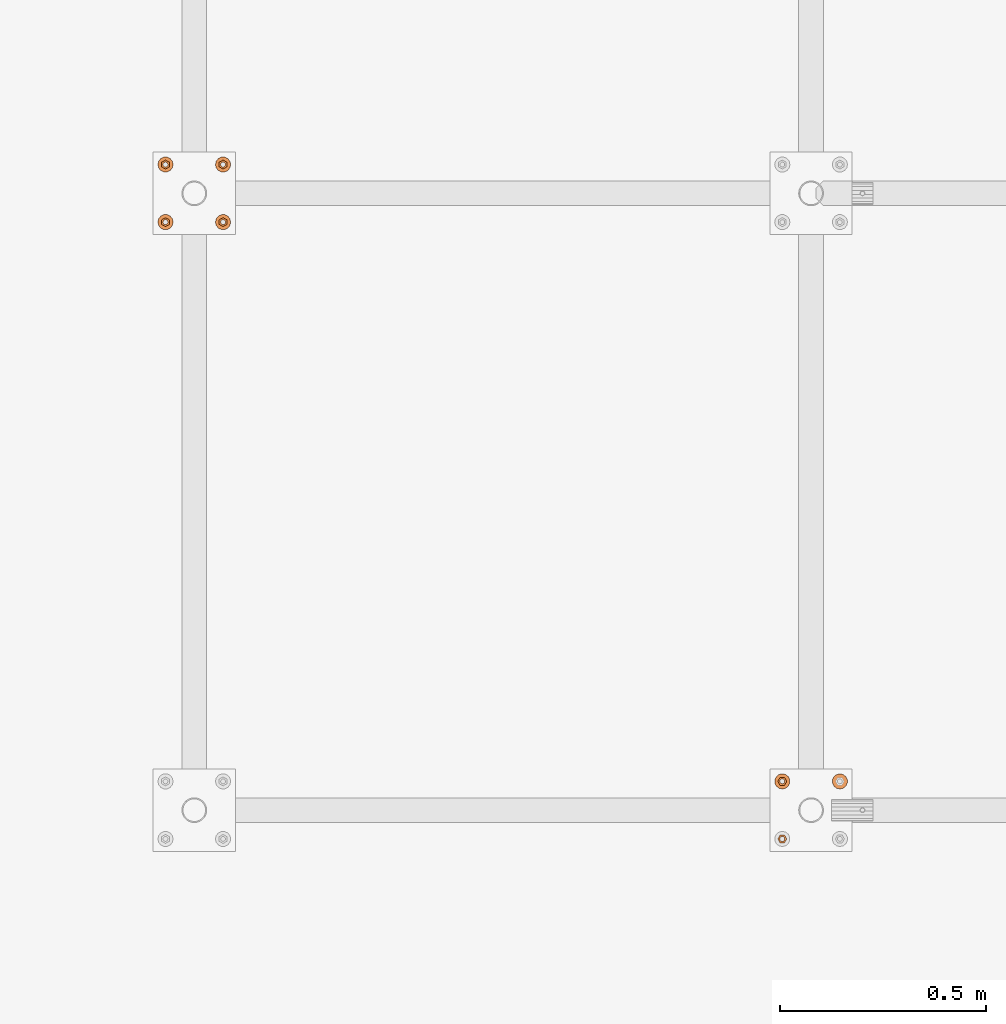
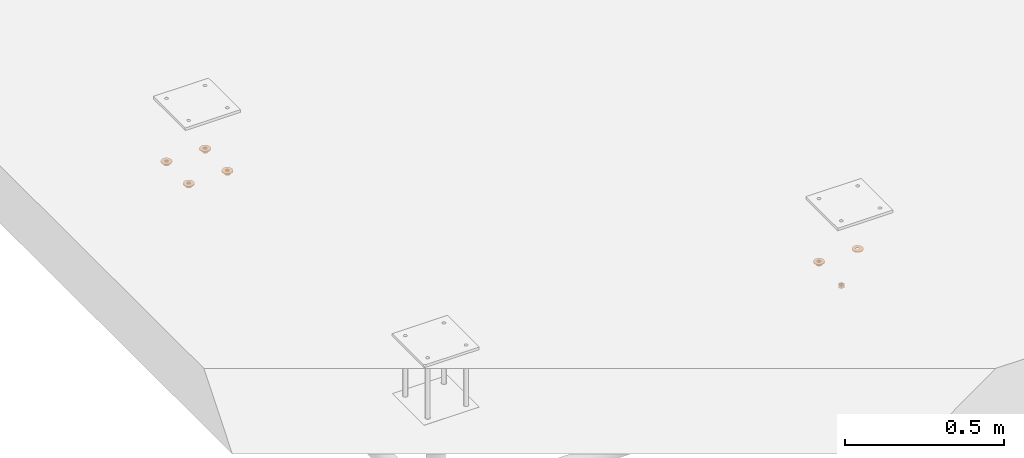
# One storey, part 20 of 30: 12 proxies.
"""IFC2X3 building model written with IfcOpenShell, lengths in millimetres."""

from ifc_helpers import new_model, entity, si_unit, converted_unit, origin_with_axes, place, context, project, spatial, faceted_brep, material, element, save


model = new_model("IFC2X3")

# Units and contexts
model_context = context("Model", 3, precision=1e-09, world=origin_with_axes())
ifc_project = project(units=[si_unit("LENGTHUNIT", "METRE", prefix="MILLI"), si_unit("AREAUNIT", "SQUARE_METRE"), si_unit("VOLUMEUNIT", "CUBIC_METRE"), converted_unit("PLANEANGLEUNIT", "DEGREE", entity("IfcPlaneAngleMeasure", 0.01745329), si_unit("PLANEANGLEUNIT", "RADIAN"), dimensions=[0, 0, 0, 0, 0, 0, 0])], contexts=[model_context])

# Site, building, storey
site_placement = place(None, origin_with_axes())
site = spatial("IfcSite", under=ifc_project, at=site_placement, Name="M?nsinger Stra?e, 81477 M?nchen", CompositionType="ELEMENT")
building_placement = place(site_placement, origin_with_axes())
building = spatial("IfcBuilding", under=site, at=building_placement, Name="Struktur 1", CompositionType="ELEMENT")
storey_placement = place(building_placement, origin_with_axes())
storey = spatial("IfcBuildingStorey", under=building, at=storey_placement, Name="Default Storey", CompositionType="ELEMENT", Elevation=0.0)

# Proxies
ifc_material = material(Name="Kein")
proxy_1_placement = place(None, origin_with_axes())
element("IfcBuildingElementProxy", 1, at=proxy_1_placement, inside=storey, material=ifc_material, ObjectType="-", context=model_context, shape_type="Brep", body=[
    faceted_brep([(1324.780556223, 3046.799376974, 6512.0), (1324.780556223, 3046.799376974, 6515.0), (1319.647193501, 3053.236410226, 6515.0), (1319.647193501, 3053.236410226, 6512.0), (1332.198480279, 3043.227093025, 6515.0), (1340.431754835, 3043.227093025, 6515.0), (1347.849678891, 3046.799376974, 6515.0), (1352.983041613, 3053.236410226, 6515.0), (1354.815117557, 3061.2632594, 6515.0), (1352.983041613, 3069.290108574, 6515.0), (1347.849678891, 3075.727141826, 6515.0), (1340.431754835, 3079.299425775, 6515.0), (1332.198480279, 3079.299425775, 6515.0), (1324.780556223, 3075.727141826, 6515.0), (1319.647193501, 3069.290108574, 6515.0), (1317.815117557, 3061.2632594, 6515.0), (1333.065117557, 3055.634094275, 6515.0), (1330.685952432, 3058.0132594, 6515.0), (1329.815117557, 3061.2632594, 6515.0), (1330.685952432, 3064.5132594, 6515.0), (1333.065117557, 3066.892424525, 6515.0), (1336.315117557, 3067.7632594, 6515.0), (1339.565117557, 3066.892424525, 6515.0), (1341.944282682, 3064.5132594, 6515.0), (1342.815117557, 3061.2632594, 6515.0), (1341.944282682, 3058.0132594, 6515.0), (1339.565117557, 3055.634094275, 6515.0), (1336.315117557, 3054.7632594, 6515.0), (1317.815117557, 3061.2632594, 6512.0), (1319.647193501, 3069.290108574, 6512.0), (1324.780556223, 3075.727141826, 6512.0), (1332.198480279, 3079.299425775, 6512.0), (1340.431754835, 3079.299425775, 6512.0), (1347.849678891, 3075.727141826, 6512.0), (1352.983041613, 3069.290108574, 6512.0), (1354.815117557, 3061.2632594, 6512.0), (1352.983041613, 3053.236410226, 6512.0), (1347.849678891, 3046.799376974, 6512.0), (1340.431754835, 3043.227093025, 6512.0), (1332.198480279, 3043.227093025, 6512.0), (1329.815117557, 3061.2632594, 6512.0), (1330.685952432, 3058.0132594, 6512.0), (1333.065117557, 3055.634094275, 6512.0), (1336.315117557, 3054.7632594, 6512.0), (1339.565117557, 3055.634094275, 6512.0), (1341.944282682, 3058.0132594, 6512.0), (1342.815117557, 3061.2632594, 6512.0), (1341.944282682, 3064.5132594, 6512.0), (1339.565117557, 3066.892424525, 6512.0), (1336.315117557, 3067.7632594, 6512.0), (1333.065117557, 3066.892424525, 6512.0), (1330.685952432, 3064.5132594, 6512.0)], [[[0, 1, 2, 3]], [[4, 5, 6, 7, 8, 9, 10, 11, 12, 13, 14, 15, 2, 1], [16, 17, 18, 19, 20, 21, 22, 23, 24, 25, 26, 27]], [[28, 29, 30, 31, 32, 33, 34, 35, 36, 37, 38, 39, 0, 3], [40, 41, 42, 43, 44, 45, 46, 47, 48, 49, 50, 51]], [[1, 0, 39, 4]], [[41, 17, 16, 42]], [[17, 41, 40, 18]], [[3, 2, 15, 28]], [[4, 39, 38, 5]], [[42, 16, 27, 43]], [[18, 40, 51, 19]], [[28, 15, 14, 29]], [[5, 38, 37, 6]], [[43, 27, 26, 44]], [[19, 51, 50, 20]], [[29, 14, 13, 30]], [[6, 37, 36, 7]], [[44, 26, 25, 45]], [[20, 50, 49, 21]], [[30, 13, 12, 31]], [[7, 36, 35, 8]], [[45, 25, 24, 46]], [[48, 22, 21, 49]], [[31, 12, 11, 32]], [[23, 47, 46, 24]], [[22, 48, 47, 23]], [[8, 35, 34, 9]], [[32, 11, 10, 33]], [[9, 34, 33, 10]]]),
])
proxy_2_placement = place(None, origin_with_axes())
element("IfcBuildingElementProxy", 2, at=proxy_2_placement, inside=storey, material=ifc_material, ObjectType="-", context=model_context, shape_type="Brep", body=[
    faceted_brep([(1330.315117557, 3061.2632594, 6502.0), (1330.315117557, 3061.2632594, 6512.0), (1331.118965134, 3058.2632594, 6512.0), (1331.118965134, 3058.2632594, 6502.0), (1333.315117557, 3056.067106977, 6512.0), (1333.315117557, 3056.067106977, 6502.0), (1331.118965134, 3064.2632594, 6502.0), (1331.118965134, 3064.2632594, 6512.0), (1326.815117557, 3066.748086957, 6512.0), (1326.815117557, 3055.778431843, 6512.0), (1336.315117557, 3050.293604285, 6512.0), (1345.815117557, 3055.778431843, 6512.0), (1345.815117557, 3066.748086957, 6512.0), (1336.315117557, 3072.232914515, 6512.0), (1333.315117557, 3066.459411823, 6512.0), (1336.315117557, 3067.2632594, 6512.0), (1339.315117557, 3066.459411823, 6512.0), (1341.51126998, 3064.2632594, 6512.0), (1342.315117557, 3061.2632594, 6512.0), (1341.51126998, 3058.2632594, 6512.0), (1339.315117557, 3056.067106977, 6512.0), (1336.315117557, 3055.2632594, 6512.0), (1326.815117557, 3066.748086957, 6502.0), (1336.315117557, 3072.232914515, 6502.0), (1345.815117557, 3066.748086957, 6502.0), (1345.815117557, 3055.778431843, 6502.0), (1336.315117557, 3050.293604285, 6502.0), (1326.815117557, 3055.778431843, 6502.0), (1333.315117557, 3066.459411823, 6502.0), (1336.315117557, 3055.2632594, 6502.0), (1336.315117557, 3067.2632594, 6502.0), (1339.315117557, 3056.067106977, 6502.0), (1339.315117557, 3066.459411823, 6502.0), (1341.51126998, 3058.2632594, 6502.0), (1341.51126998, 3064.2632594, 6502.0), (1342.315117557, 3061.2632594, 6502.0)], [[[0, 1, 2, 3]], [[3, 2, 4, 5]], [[1, 0, 6, 7]], [[8, 9, 10, 11, 12, 13], [7, 14, 15, 16, 17, 18, 19, 20, 21, 4, 2, 1]], [[22, 23, 24, 25, 26, 27]], [[7, 6, 28, 14]], [[22, 27, 9, 8]], [[5, 4, 21, 29]], [[10, 9, 27, 26]], [[14, 28, 30, 15]], [[23, 22, 8, 13]], [[29, 21, 20, 31]], [[11, 10, 26, 25]], [[15, 30, 32, 16]], [[24, 23, 13, 12]], [[31, 20, 19, 33]], [[25, 24, 12, 11]], [[16, 32, 34, 17]], [[33, 19, 18, 35]], [[17, 34, 35, 18]]]),
])
proxy_3_placement = place(None, origin_with_axes())
element("IfcBuildingElementProxy", 3, at=proxy_3_placement, inside=storey, material=ifc_material, ObjectType="-", context=model_context, shape_type="Brep", body=[
    faceted_brep([(1470.315117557, 3061.2632594, 6502.0), (1470.315117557, 3061.2632594, 6512.0), (1471.118965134, 3058.2632594, 6512.0), (1471.118965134, 3058.2632594, 6502.0), (1473.315117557, 3056.067106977, 6512.0), (1473.315117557, 3056.067106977, 6502.0), (1471.118965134, 3064.2632594, 6502.0), (1471.118965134, 3064.2632594, 6512.0), (1466.815117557, 3066.748086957, 6512.0), (1466.815117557, 3055.778431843, 6512.0), (1476.315117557, 3050.293604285, 6512.0), (1485.815117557, 3055.778431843, 6512.0), (1485.815117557, 3066.748086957, 6512.0), (1476.315117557, 3072.232914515, 6512.0), (1473.315117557, 3066.459411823, 6512.0), (1476.315117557, 3067.2632594, 6512.0), (1479.315117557, 3066.459411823, 6512.0), (1481.51126998, 3064.2632594, 6512.0), (1482.315117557, 3061.2632594, 6512.0), (1481.51126998, 3058.2632594, 6512.0), (1479.315117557, 3056.067106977, 6512.0), (1476.315117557, 3055.2632594, 6512.0), (1466.815117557, 3066.748086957, 6502.0), (1476.315117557, 3072.232914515, 6502.0), (1485.815117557, 3066.748086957, 6502.0), (1485.815117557, 3055.778431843, 6502.0), (1476.315117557, 3050.293604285, 6502.0), (1466.815117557, 3055.778431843, 6502.0), (1473.315117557, 3066.459411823, 6502.0), (1476.315117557, 3055.2632594, 6502.0), (1476.315117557, 3067.2632594, 6502.0), (1479.315117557, 3056.067106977, 6502.0), (1479.315117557, 3066.459411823, 6502.0), (1481.51126998, 3058.2632594, 6502.0), (1481.51126998, 3064.2632594, 6502.0), (1482.315117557, 3061.2632594, 6502.0)], [[[0, 1, 2, 3]], [[3, 2, 4, 5]], [[1, 0, 6, 7]], [[8, 9, 10, 11, 12, 13], [7, 14, 15, 16, 17, 18, 19, 20, 21, 4, 2, 1]], [[22, 23, 24, 25, 26, 27]], [[7, 6, 28, 14]], [[22, 27, 9, 8]], [[5, 4, 21, 29]], [[10, 9, 27, 26]], [[14, 28, 30, 15]], [[23, 22, 8, 13]], [[29, 21, 20, 31]], [[11, 10, 26, 25]], [[15, 30, 32, 16]], [[24, 23, 13, 12]], [[31, 20, 19, 33]], [[25, 24, 12, 11]], [[16, 32, 34, 17]], [[33, 19, 18, 35]], [[17, 34, 35, 18]]]),
])
proxy_4_placement = place(None, origin_with_axes())
element("IfcBuildingElementProxy", 4, at=proxy_4_placement, inside=storey, material=ifc_material, ObjectType="-", context=model_context, shape_type="Brep", body=[
    faceted_brep([(1464.780556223, 3046.799376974, 6512.0), (1464.780556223, 3046.799376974, 6515.0), (1459.647193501, 3053.236410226, 6515.0), (1459.647193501, 3053.236410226, 6512.0), (1472.198480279, 3043.227093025, 6515.0), (1480.431754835, 3043.227093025, 6515.0), (1487.849678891, 3046.799376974, 6515.0), (1492.983041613, 3053.236410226, 6515.0), (1494.815117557, 3061.2632594, 6515.0), (1492.983041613, 3069.290108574, 6515.0), (1487.849678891, 3075.727141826, 6515.0), (1480.431754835, 3079.299425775, 6515.0), (1472.198480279, 3079.299425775, 6515.0), (1464.780556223, 3075.727141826, 6515.0), (1459.647193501, 3069.290108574, 6515.0), (1457.815117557, 3061.2632594, 6515.0), (1473.065117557, 3055.634094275, 6515.0), (1470.685952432, 3058.0132594, 6515.0), (1469.815117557, 3061.2632594, 6515.0), (1470.685952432, 3064.5132594, 6515.0), (1473.065117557, 3066.892424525, 6515.0), (1476.315117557, 3067.7632594, 6515.0), (1479.565117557, 3066.892424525, 6515.0), (1481.944282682, 3064.5132594, 6515.0), (1482.815117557, 3061.2632594, 6515.0), (1481.944282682, 3058.0132594, 6515.0), (1479.565117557, 3055.634094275, 6515.0), (1476.315117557, 3054.7632594, 6515.0), (1457.815117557, 3061.2632594, 6512.0), (1459.647193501, 3069.290108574, 6512.0), (1464.780556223, 3075.727141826, 6512.0), (1472.198480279, 3079.299425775, 6512.0), (1480.431754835, 3079.299425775, 6512.0), (1487.849678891, 3075.727141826, 6512.0), (1492.983041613, 3069.290108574, 6512.0), (1494.815117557, 3061.2632594, 6512.0), (1492.983041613, 3053.236410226, 6512.0), (1487.849678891, 3046.799376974, 6512.0), (1480.431754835, 3043.227093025, 6512.0), (1472.198480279, 3043.227093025, 6512.0), (1469.815117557, 3061.2632594, 6512.0), (1470.685952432, 3058.0132594, 6512.0), (1473.065117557, 3055.634094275, 6512.0), (1476.315117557, 3054.7632594, 6512.0), (1479.565117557, 3055.634094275, 6512.0), (1481.944282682, 3058.0132594, 6512.0), (1482.815117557, 3061.2632594, 6512.0), (1481.944282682, 3064.5132594, 6512.0), (1479.565117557, 3066.892424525, 6512.0), (1476.315117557, 3067.7632594, 6512.0), (1473.065117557, 3066.892424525, 6512.0), (1470.685952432, 3064.5132594, 6512.0)], [[[0, 1, 2, 3]], [[4, 5, 6, 7, 8, 9, 10, 11, 12, 13, 14, 15, 2, 1], [16, 17, 18, 19, 20, 21, 22, 23, 24, 25, 26, 27]], [[28, 29, 30, 31, 32, 33, 34, 35, 36, 37, 38, 39, 0, 3], [40, 41, 42, 43, 44, 45, 46, 47, 48, 49, 50, 51]], [[1, 0, 39, 4]], [[41, 17, 16, 42]], [[17, 41, 40, 18]], [[3, 2, 15, 28]], [[4, 39, 38, 5]], [[42, 16, 27, 43]], [[18, 40, 51, 19]], [[28, 15, 14, 29]], [[5, 38, 37, 6]], [[43, 27, 26, 44]], [[19, 51, 50, 20]], [[29, 14, 13, 30]], [[6, 37, 36, 7]], [[44, 26, 25, 45]], [[20, 50, 49, 21]], [[30, 13, 12, 31]], [[7, 36, 35, 8]], [[45, 25, 24, 46]], [[48, 22, 21, 49]], [[31, 12, 11, 32]], [[23, 47, 46, 24]], [[22, 48, 47, 23]], [[8, 35, 34, 9]], [[32, 11, 10, 33]], [[9, 34, 33, 10]]]),
])
proxy_5_placement = place(None, origin_with_axes())
element("IfcBuildingElementProxy", 5, at=proxy_5_placement, inside=storey, material=ifc_material, ObjectType="-", context=model_context, shape_type="Brep", body=[
    faceted_brep([(1464.780556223, 2906.799376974, 6512.0), (1464.780556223, 2906.799376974, 6515.0), (1459.647193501, 2913.236410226, 6515.0), (1459.647193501, 2913.236410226, 6512.0), (1472.198480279, 2903.227093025, 6515.0), (1480.431754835, 2903.227093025, 6515.0), (1487.849678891, 2906.799376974, 6515.0), (1492.983041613, 2913.236410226, 6515.0), (1494.815117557, 2921.2632594, 6515.0), (1492.983041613, 2929.290108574, 6515.0), (1487.849678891, 2935.727141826, 6515.0), (1480.431754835, 2939.299425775, 6515.0), (1472.198480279, 2939.299425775, 6515.0), (1464.780556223, 2935.727141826, 6515.0), (1459.647193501, 2929.290108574, 6515.0), (1457.815117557, 2921.2632594, 6515.0), (1473.065117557, 2915.634094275, 6515.0), (1470.685952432, 2918.0132594, 6515.0), (1469.815117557, 2921.2632594, 6515.0), (1470.685952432, 2924.5132594, 6515.0), (1473.065117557, 2926.892424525, 6515.0), (1476.315117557, 2927.7632594, 6515.0), (1479.565117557, 2926.892424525, 6515.0), (1481.944282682, 2924.5132594, 6515.0), (1482.815117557, 2921.2632594, 6515.0), (1481.944282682, 2918.0132594, 6515.0), (1479.565117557, 2915.634094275, 6515.0), (1476.315117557, 2914.7632594, 6515.0), (1457.815117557, 2921.2632594, 6512.0), (1459.647193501, 2929.290108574, 6512.0), (1464.780556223, 2935.727141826, 6512.0), (1472.198480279, 2939.299425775, 6512.0), (1480.431754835, 2939.299425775, 6512.0), (1487.849678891, 2935.727141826, 6512.0), (1492.983041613, 2929.290108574, 6512.0), (1494.815117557, 2921.2632594, 6512.0), (1492.983041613, 2913.236410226, 6512.0), (1487.849678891, 2906.799376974, 6512.0), (1480.431754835, 2903.227093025, 6512.0), (1472.198480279, 2903.227093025, 6512.0), (1469.815117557, 2921.2632594, 6512.0), (1470.685952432, 2918.0132594, 6512.0), (1473.065117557, 2915.634094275, 6512.0), (1476.315117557, 2914.7632594, 6512.0), (1479.565117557, 2915.634094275, 6512.0), (1481.944282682, 2918.0132594, 6512.0), (1482.815117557, 2921.2632594, 6512.0), (1481.944282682, 2924.5132594, 6512.0), (1479.565117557, 2926.892424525, 6512.0), (1476.315117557, 2927.7632594, 6512.0), (1473.065117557, 2926.892424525, 6512.0), (1470.685952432, 2924.5132594, 6512.0)], [[[0, 1, 2, 3]], [[4, 5, 6, 7, 8, 9, 10, 11, 12, 13, 14, 15, 2, 1], [16, 17, 18, 19, 20, 21, 22, 23, 24, 25, 26, 27]], [[28, 29, 30, 31, 32, 33, 34, 35, 36, 37, 38, 39, 0, 3], [40, 41, 42, 43, 44, 45, 46, 47, 48, 49, 50, 51]], [[1, 0, 39, 4]], [[41, 17, 16, 42]], [[17, 41, 40, 18]], [[3, 2, 15, 28]], [[4, 39, 38, 5]], [[42, 16, 27, 43]], [[18, 40, 51, 19]], [[28, 15, 14, 29]], [[5, 38, 37, 6]], [[43, 27, 26, 44]], [[19, 51, 50, 20]], [[29, 14, 13, 30]], [[6, 37, 36, 7]], [[44, 26, 25, 45]], [[20, 50, 49, 21]], [[30, 13, 12, 31]], [[7, 36, 35, 8]], [[45, 25, 24, 46]], [[48, 22, 21, 49]], [[31, 12, 11, 32]], [[23, 47, 46, 24]], [[22, 48, 47, 23]], [[8, 35, 34, 9]], [[32, 11, 10, 33]], [[9, 34, 33, 10]]]),
])
proxy_6_placement = place(None, origin_with_axes())
element("IfcBuildingElementProxy", 6, at=proxy_6_placement, inside=storey, material=ifc_material, ObjectType="-", context=model_context, shape_type="Brep", body=[
    faceted_brep([(1470.315117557, 2921.2632594, 6502.0), (1470.315117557, 2921.2632594, 6512.0), (1471.118965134, 2918.2632594, 6512.0), (1471.118965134, 2918.2632594, 6502.0), (1473.315117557, 2916.067106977, 6512.0), (1473.315117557, 2916.067106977, 6502.0), (1471.118965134, 2924.2632594, 6502.0), (1471.118965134, 2924.2632594, 6512.0), (1466.815117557, 2926.748086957, 6512.0), (1466.815117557, 2915.778431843, 6512.0), (1476.315117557, 2910.293604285, 6512.0), (1485.815117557, 2915.778431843, 6512.0), (1485.815117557, 2926.748086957, 6512.0), (1476.315117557, 2932.232914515, 6512.0), (1473.315117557, 2926.459411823, 6512.0), (1476.315117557, 2927.2632594, 6512.0), (1479.315117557, 2926.459411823, 6512.0), (1481.51126998, 2924.2632594, 6512.0), (1482.315117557, 2921.2632594, 6512.0), (1481.51126998, 2918.2632594, 6512.0), (1479.315117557, 2916.067106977, 6512.0), (1476.315117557, 2915.2632594, 6512.0), (1466.815117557, 2926.748086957, 6502.0), (1476.315117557, 2932.232914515, 6502.0), (1485.815117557, 2926.748086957, 6502.0), (1485.815117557, 2915.778431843, 6502.0), (1476.315117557, 2910.293604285, 6502.0), (1466.815117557, 2915.778431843, 6502.0), (1473.315117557, 2926.459411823, 6502.0), (1476.315117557, 2915.2632594, 6502.0), (1476.315117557, 2927.2632594, 6502.0), (1479.315117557, 2916.067106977, 6502.0), (1479.315117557, 2926.459411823, 6502.0), (1481.51126998, 2918.2632594, 6502.0), (1481.51126998, 2924.2632594, 6502.0), (1482.315117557, 2921.2632594, 6502.0)], [[[0, 1, 2, 3]], [[3, 2, 4, 5]], [[1, 0, 6, 7]], [[8, 9, 10, 11, 12, 13], [7, 14, 15, 16, 17, 18, 19, 20, 21, 4, 2, 1]], [[22, 23, 24, 25, 26, 27]], [[7, 6, 28, 14]], [[22, 27, 9, 8]], [[5, 4, 21, 29]], [[10, 9, 27, 26]], [[14, 28, 30, 15]], [[23, 22, 8, 13]], [[29, 21, 20, 31]], [[11, 10, 26, 25]], [[15, 30, 32, 16]], [[24, 23, 13, 12]], [[31, 20, 19, 33]], [[25, 24, 12, 11]], [[16, 32, 34, 17]], [[33, 19, 18, 35]], [[17, 34, 35, 18]]]),
])
proxy_7_placement = place(None, origin_with_axes())
element("IfcBuildingElementProxy", 7, at=proxy_7_placement, inside=storey, material=ifc_material, ObjectType="-", context=model_context, shape_type="Brep", body=[
    faceted_brep([(1330.315117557, 2921.2632594, 6502.0), (1330.315117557, 2921.2632594, 6512.0), (1331.118965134, 2918.2632594, 6512.0), (1331.118965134, 2918.2632594, 6502.0), (1333.315117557, 2916.067106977, 6512.0), (1333.315117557, 2916.067106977, 6502.0), (1331.118965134, 2924.2632594, 6502.0), (1331.118965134, 2924.2632594, 6512.0), (1326.815117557, 2926.748086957, 6512.0), (1326.815117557, 2915.778431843, 6512.0), (1336.315117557, 2910.293604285, 6512.0), (1345.815117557, 2915.778431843, 6512.0), (1345.815117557, 2926.748086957, 6512.0), (1336.315117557, 2932.232914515, 6512.0), (1333.315117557, 2926.459411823, 6512.0), (1336.315117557, 2927.2632594, 6512.0), (1339.315117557, 2926.459411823, 6512.0), (1341.51126998, 2924.2632594, 6512.0), (1342.315117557, 2921.2632594, 6512.0), (1341.51126998, 2918.2632594, 6512.0), (1339.315117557, 2916.067106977, 6512.0), (1336.315117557, 2915.2632594, 6512.0), (1326.815117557, 2926.748086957, 6502.0), (1336.315117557, 2932.232914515, 6502.0), (1345.815117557, 2926.748086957, 6502.0), (1345.815117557, 2915.778431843, 6502.0), (1336.315117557, 2910.293604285, 6502.0), (1326.815117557, 2915.778431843, 6502.0), (1333.315117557, 2926.459411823, 6502.0), (1336.315117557, 2915.2632594, 6502.0), (1336.315117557, 2927.2632594, 6502.0), (1339.315117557, 2916.067106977, 6502.0), (1339.315117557, 2926.459411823, 6502.0), (1341.51126998, 2918.2632594, 6502.0), (1341.51126998, 2924.2632594, 6502.0), (1342.315117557, 2921.2632594, 6502.0)], [[[0, 1, 2, 3]], [[3, 2, 4, 5]], [[1, 0, 6, 7]], [[8, 9, 10, 11, 12, 13], [7, 14, 15, 16, 17, 18, 19, 20, 21, 4, 2, 1]], [[22, 23, 24, 25, 26, 27]], [[7, 6, 28, 14]], [[22, 27, 9, 8]], [[5, 4, 21, 29]], [[10, 9, 27, 26]], [[14, 28, 30, 15]], [[23, 22, 8, 13]], [[29, 21, 20, 31]], [[11, 10, 26, 25]], [[15, 30, 32, 16]], [[24, 23, 13, 12]], [[31, 20, 19, 33]], [[25, 24, 12, 11]], [[16, 32, 34, 17]], [[33, 19, 18, 35]], [[17, 34, 35, 18]]]),
])
proxy_8_placement = place(None, origin_with_axes())
element("IfcBuildingElementProxy", 8, at=proxy_8_placement, inside=storey, material=ifc_material, ObjectType="-", context=model_context, shape_type="Brep", body=[
    faceted_brep([(1324.780556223, 2906.799376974, 6512.0), (1324.780556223, 2906.799376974, 6515.0), (1319.647193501, 2913.236410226, 6515.0), (1319.647193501, 2913.236410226, 6512.0), (1332.198480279, 2903.227093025, 6515.0), (1340.431754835, 2903.227093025, 6515.0), (1347.849678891, 2906.799376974, 6515.0), (1352.983041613, 2913.236410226, 6515.0), (1354.815117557, 2921.2632594, 6515.0), (1352.983041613, 2929.290108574, 6515.0), (1347.849678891, 2935.727141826, 6515.0), (1340.431754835, 2939.299425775, 6515.0), (1332.198480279, 2939.299425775, 6515.0), (1324.780556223, 2935.727141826, 6515.0), (1319.647193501, 2929.290108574, 6515.0), (1317.815117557, 2921.2632594, 6515.0), (1333.065117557, 2915.634094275, 6515.0), (1330.685952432, 2918.0132594, 6515.0), (1329.815117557, 2921.2632594, 6515.0), (1330.685952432, 2924.5132594, 6515.0), (1333.065117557, 2926.892424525, 6515.0), (1336.315117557, 2927.7632594, 6515.0), (1339.565117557, 2926.892424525, 6515.0), (1341.944282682, 2924.5132594, 6515.0), (1342.815117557, 2921.2632594, 6515.0), (1341.944282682, 2918.0132594, 6515.0), (1339.565117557, 2915.634094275, 6515.0), (1336.315117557, 2914.7632594, 6515.0), (1317.815117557, 2921.2632594, 6512.0), (1319.647193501, 2929.290108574, 6512.0), (1324.780556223, 2935.727141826, 6512.0), (1332.198480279, 2939.299425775, 6512.0), (1340.431754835, 2939.299425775, 6512.0), (1347.849678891, 2935.727141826, 6512.0), (1352.983041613, 2929.290108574, 6512.0), (1354.815117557, 2921.2632594, 6512.0), (1352.983041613, 2913.236410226, 6512.0), (1347.849678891, 2906.799376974, 6512.0), (1340.431754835, 2903.227093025, 6512.0), (1332.198480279, 2903.227093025, 6512.0), (1329.815117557, 2921.2632594, 6512.0), (1330.685952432, 2918.0132594, 6512.0), (1333.065117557, 2915.634094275, 6512.0), (1336.315117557, 2914.7632594, 6512.0), (1339.565117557, 2915.634094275, 6512.0), (1341.944282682, 2918.0132594, 6512.0), (1342.815117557, 2921.2632594, 6512.0), (1341.944282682, 2924.5132594, 6512.0), (1339.565117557, 2926.892424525, 6512.0), (1336.315117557, 2927.7632594, 6512.0), (1333.065117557, 2926.892424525, 6512.0), (1330.685952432, 2924.5132594, 6512.0)], [[[0, 1, 2, 3]], [[4, 5, 6, 7, 8, 9, 10, 11, 12, 13, 14, 15, 2, 1], [16, 17, 18, 19, 20, 21, 22, 23, 24, 25, 26, 27]], [[28, 29, 30, 31, 32, 33, 34, 35, 36, 37, 38, 39, 0, 3], [40, 41, 42, 43, 44, 45, 46, 47, 48, 49, 50, 51]], [[1, 0, 39, 4]], [[41, 17, 16, 42]], [[17, 41, 40, 18]], [[3, 2, 15, 28]], [[4, 39, 38, 5]], [[42, 16, 27, 43]], [[18, 40, 51, 19]], [[28, 15, 14, 29]], [[5, 38, 37, 6]], [[43, 27, 26, 44]], [[19, 51, 50, 20]], [[29, 14, 13, 30]], [[6, 37, 36, 7]], [[44, 26, 25, 45]], [[20, 50, 49, 21]], [[30, 13, 12, 31]], [[7, 36, 35, 8]], [[45, 25, 24, 46]], [[48, 22, 21, 49]], [[31, 12, 11, 32]], [[23, 47, 46, 24]], [[22, 48, 47, 23]], [[8, 35, 34, 9]], [[32, 11, 10, 33]], [[9, 34, 33, 10]]]),
])
proxy_9_placement = place(None, origin_with_axes())
element("IfcBuildingElementProxy", 9, at=proxy_9_placement, inside=storey, material=ifc_material, ObjectType="-", context=model_context, shape_type="Brep", body=[
    faceted_brep([(2990.778999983, 1549.728698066, 6512.0), (2990.778999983, 1549.728698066, 6515.0), (2984.341966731, 1544.595335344, 6515.0), (2984.341966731, 1544.595335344, 6512.0), (2994.351283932, 1557.146622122, 6515.0), (2994.351283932, 1565.379896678, 6515.0), (2990.778999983, 1572.797820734, 6515.0), (2984.341966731, 1577.931183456, 6515.0), (2976.315117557, 1579.7632594, 6515.0), (2968.288268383, 1577.931183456, 6515.0), (2961.851235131, 1572.797820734, 6515.0), (2958.278951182, 1565.379896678, 6515.0), (2958.278951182, 1557.146622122, 6515.0), (2961.851235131, 1549.728698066, 6515.0), (2968.288268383, 1544.595335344, 6515.0), (2976.315117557, 1542.7632594, 6515.0), (2981.944282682, 1558.0132594, 6515.0), (2979.565117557, 1555.634094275, 6515.0), (2976.315117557, 1554.7632594, 6515.0), (2973.065117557, 1555.634094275, 6515.0), (2970.685952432, 1558.0132594, 6515.0), (2969.815117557, 1561.2632594, 6515.0), (2970.685952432, 1564.5132594, 6515.0), (2973.065117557, 1566.892424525, 6515.0), (2976.315117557, 1567.7632594, 6515.0), (2979.565117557, 1566.892424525, 6515.0), (2981.944282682, 1564.5132594, 6515.0), (2982.815117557, 1561.2632594, 6515.0), (2976.315117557, 1542.7632594, 6512.0), (2968.288268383, 1544.595335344, 6512.0), (2961.851235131, 1549.728698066, 6512.0), (2958.278951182, 1557.146622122, 6512.0), (2958.278951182, 1565.379896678, 6512.0), (2961.851235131, 1572.797820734, 6512.0), (2968.288268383, 1577.931183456, 6512.0), (2976.315117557, 1579.7632594, 6512.0), (2984.341966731, 1577.931183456, 6512.0), (2990.778999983, 1572.797820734, 6512.0), (2994.351283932, 1565.379896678, 6512.0), (2994.351283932, 1557.146622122, 6512.0), (2976.315117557, 1554.7632594, 6512.0), (2979.565117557, 1555.634094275, 6512.0), (2981.944282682, 1558.0132594, 6512.0), (2982.815117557, 1561.2632594, 6512.0), (2981.944282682, 1564.5132594, 6512.0), (2979.565117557, 1566.892424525, 6512.0), (2976.315117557, 1567.7632594, 6512.0), (2973.065117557, 1566.892424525, 6512.0), (2970.685952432, 1564.5132594, 6512.0), (2969.815117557, 1561.2632594, 6512.0), (2970.685952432, 1558.0132594, 6512.0), (2973.065117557, 1555.634094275, 6512.0)], [[[0, 1, 2, 3]], [[4, 5, 6, 7, 8, 9, 10, 11, 12, 13, 14, 15, 2, 1], [16, 17, 18, 19, 20, 21, 22, 23, 24, 25, 26, 27]], [[28, 29, 30, 31, 32, 33, 34, 35, 36, 37, 38, 39, 0, 3], [40, 41, 42, 43, 44, 45, 46, 47, 48, 49, 50, 51]], [[1, 0, 39, 4]], [[41, 17, 16, 42]], [[17, 41, 40, 18]], [[3, 2, 15, 28]], [[4, 39, 38, 5]], [[42, 16, 27, 43]], [[18, 40, 51, 19]], [[28, 15, 14, 29]], [[5, 38, 37, 6]], [[43, 27, 26, 44]], [[19, 51, 50, 20]], [[29, 14, 13, 30]], [[6, 37, 36, 7]], [[44, 26, 25, 45]], [[20, 50, 49, 21]], [[30, 13, 12, 31]], [[7, 36, 35, 8]], [[45, 25, 24, 46]], [[48, 22, 21, 49]], [[31, 12, 11, 32]], [[23, 47, 46, 24]], [[22, 48, 47, 23]], [[8, 35, 34, 9]], [[32, 11, 10, 33]], [[9, 34, 33, 10]]]),
])
proxy_10_placement = place(None, origin_with_axes())
element("IfcBuildingElementProxy", 10, at=proxy_10_placement, inside=storey, material=ifc_material, ObjectType="-", context=model_context, shape_type="Brep", body=[
    faceted_brep([(2850.778999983, 1549.728698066, 6512.0), (2850.778999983, 1549.728698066, 6515.0), (2844.341966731, 1544.595335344, 6515.0), (2844.341966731, 1544.595335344, 6512.0), (2854.351283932, 1557.146622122, 6515.0), (2854.351283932, 1565.379896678, 6515.0), (2850.778999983, 1572.797820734, 6515.0), (2844.341966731, 1577.931183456, 6515.0), (2836.315117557, 1579.7632594, 6515.0), (2828.288268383, 1577.931183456, 6515.0), (2821.851235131, 1572.797820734, 6515.0), (2818.278951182, 1565.379896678, 6515.0), (2818.278951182, 1557.146622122, 6515.0), (2821.851235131, 1549.728698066, 6515.0), (2828.288268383, 1544.595335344, 6515.0), (2836.315117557, 1542.7632594, 6515.0), (2841.944282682, 1558.0132594, 6515.0), (2839.565117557, 1555.634094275, 6515.0), (2836.315117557, 1554.7632594, 6515.0), (2833.065117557, 1555.634094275, 6515.0), (2830.685952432, 1558.0132594, 6515.0), (2829.815117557, 1561.2632594, 6515.0), (2830.685952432, 1564.5132594, 6515.0), (2833.065117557, 1566.892424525, 6515.0), (2836.315117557, 1567.7632594, 6515.0), (2839.565117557, 1566.892424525, 6515.0), (2841.944282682, 1564.5132594, 6515.0), (2842.815117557, 1561.2632594, 6515.0), (2836.315117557, 1542.7632594, 6512.0), (2828.288268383, 1544.595335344, 6512.0), (2821.851235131, 1549.728698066, 6512.0), (2818.278951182, 1557.146622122, 6512.0), (2818.278951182, 1565.379896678, 6512.0), (2821.851235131, 1572.797820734, 6512.0), (2828.288268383, 1577.931183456, 6512.0), (2836.315117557, 1579.7632594, 6512.0), (2844.341966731, 1577.931183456, 6512.0), (2850.778999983, 1572.797820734, 6512.0), (2854.351283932, 1565.379896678, 6512.0), (2854.351283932, 1557.146622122, 6512.0), (2836.315117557, 1554.7632594, 6512.0), (2839.565117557, 1555.634094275, 6512.0), (2841.944282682, 1558.0132594, 6512.0), (2842.815117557, 1561.2632594, 6512.0), (2841.944282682, 1564.5132594, 6512.0), (2839.565117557, 1566.892424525, 6512.0), (2836.315117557, 1567.7632594, 6512.0), (2833.065117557, 1566.892424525, 6512.0), (2830.685952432, 1564.5132594, 6512.0), (2829.815117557, 1561.2632594, 6512.0), (2830.685952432, 1558.0132594, 6512.0), (2833.065117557, 1555.634094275, 6512.0)], [[[0, 1, 2, 3]], [[4, 5, 6, 7, 8, 9, 10, 11, 12, 13, 14, 15, 2, 1], [16, 17, 18, 19, 20, 21, 22, 23, 24, 25, 26, 27]], [[28, 29, 30, 31, 32, 33, 34, 35, 36, 37, 38, 39, 0, 3], [40, 41, 42, 43, 44, 45, 46, 47, 48, 49, 50, 51]], [[1, 0, 39, 4]], [[41, 17, 16, 42]], [[17, 41, 40, 18]], [[3, 2, 15, 28]], [[4, 39, 38, 5]], [[42, 16, 27, 43]], [[18, 40, 51, 19]], [[28, 15, 14, 29]], [[5, 38, 37, 6]], [[43, 27, 26, 44]], [[19, 51, 50, 20]], [[29, 14, 13, 30]], [[6, 37, 36, 7]], [[44, 26, 25, 45]], [[20, 50, 49, 21]], [[30, 13, 12, 31]], [[7, 36, 35, 8]], [[45, 25, 24, 46]], [[48, 22, 21, 49]], [[31, 12, 11, 32]], [[23, 47, 46, 24]], [[22, 48, 47, 23]], [[8, 35, 34, 9]], [[32, 11, 10, 33]], [[9, 34, 33, 10]]]),
])
proxy_11_placement = place(None, origin_with_axes())
element("IfcBuildingElementProxy", 11, at=proxy_11_placement, inside=storey, material=ifc_material, ObjectType="-", context=model_context, shape_type="Brep", body=[
    faceted_brep([(2836.315117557, 1555.2632594, 6502.0), (2836.315117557, 1555.2632594, 6512.0), (2839.315117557, 1556.067106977, 6512.0), (2839.315117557, 1556.067106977, 6502.0), (2841.51126998, 1558.2632594, 6512.0), (2841.51126998, 1558.2632594, 6502.0), (2833.315117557, 1556.067106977, 6502.0), (2833.315117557, 1556.067106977, 6512.0), (2830.83029, 1551.7632594, 6512.0), (2841.799945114, 1551.7632594, 6512.0), (2847.284772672, 1561.2632594, 6512.0), (2841.799945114, 1570.7632594, 6512.0), (2830.83029, 1570.7632594, 6512.0), (2825.345462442, 1561.2632594, 6512.0), (2831.118965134, 1558.2632594, 6512.0), (2830.315117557, 1561.2632594, 6512.0), (2831.118965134, 1564.2632594, 6512.0), (2833.315117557, 1566.459411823, 6512.0), (2836.315117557, 1567.2632594, 6512.0), (2839.315117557, 1566.459411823, 6512.0), (2841.51126998, 1564.2632594, 6512.0), (2842.315117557, 1561.2632594, 6512.0), (2830.83029, 1551.7632594, 6502.0), (2825.345462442, 1561.2632594, 6502.0), (2830.83029, 1570.7632594, 6502.0), (2841.799945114, 1570.7632594, 6502.0), (2847.284772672, 1561.2632594, 6502.0), (2841.799945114, 1551.7632594, 6502.0), (2831.118965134, 1558.2632594, 6502.0), (2842.315117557, 1561.2632594, 6502.0), (2830.315117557, 1561.2632594, 6502.0), (2841.51126998, 1564.2632594, 6502.0), (2831.118965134, 1564.2632594, 6502.0), (2839.315117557, 1566.459411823, 6502.0), (2833.315117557, 1566.459411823, 6502.0), (2836.315117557, 1567.2632594, 6502.0)], [[[0, 1, 2, 3]], [[3, 2, 4, 5]], [[1, 0, 6, 7]], [[8, 9, 10, 11, 12, 13], [7, 14, 15, 16, 17, 18, 19, 20, 21, 4, 2, 1]], [[22, 23, 24, 25, 26, 27]], [[7, 6, 28, 14]], [[22, 27, 9, 8]], [[5, 4, 21, 29]], [[10, 9, 27, 26]], [[14, 28, 30, 15]], [[23, 22, 8, 13]], [[29, 21, 20, 31]], [[11, 10, 26, 25]], [[15, 30, 32, 16]], [[24, 23, 13, 12]], [[31, 20, 19, 33]], [[25, 24, 12, 11]], [[16, 32, 34, 17]], [[33, 19, 18, 35]], [[17, 34, 35, 18]]]),
])
proxy_12_placement = place(None, origin_with_axes())
element("IfcBuildingElementProxy", 12, at=proxy_12_placement, inside=storey, material=ifc_material, ObjectType="-", context=model_context, shape_type="Brep", body=[
    faceted_brep([(2836.315117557, 1415.2632594, 6502.0), (2836.315117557, 1415.2632594, 6512.0), (2839.315117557, 1416.067106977, 6512.0), (2839.315117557, 1416.067106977, 6502.0), (2841.51126998, 1418.2632594, 6512.0), (2841.51126998, 1418.2632594, 6502.0), (2833.315117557, 1416.067106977, 6502.0), (2833.315117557, 1416.067106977, 6512.0), (2830.83029, 1411.7632594, 6512.0), (2841.799945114, 1411.7632594, 6512.0), (2847.284772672, 1421.2632594, 6512.0), (2841.799945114, 1430.7632594, 6512.0), (2830.83029, 1430.7632594, 6512.0), (2825.345462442, 1421.2632594, 6512.0), (2831.118965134, 1418.2632594, 6512.0), (2830.315117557, 1421.2632594, 6512.0), (2831.118965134, 1424.2632594, 6512.0), (2833.315117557, 1426.459411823, 6512.0), (2836.315117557, 1427.2632594, 6512.0), (2839.315117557, 1426.459411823, 6512.0), (2841.51126998, 1424.2632594, 6512.0), (2842.315117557, 1421.2632594, 6512.0), (2830.83029, 1411.7632594, 6502.0), (2825.345462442, 1421.2632594, 6502.0), (2830.83029, 1430.7632594, 6502.0), (2841.799945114, 1430.7632594, 6502.0), (2847.284772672, 1421.2632594, 6502.0), (2841.799945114, 1411.7632594, 6502.0), (2831.118965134, 1418.2632594, 6502.0), (2842.315117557, 1421.2632594, 6502.0), (2830.315117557, 1421.2632594, 6502.0), (2841.51126998, 1424.2632594, 6502.0), (2831.118965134, 1424.2632594, 6502.0), (2839.315117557, 1426.459411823, 6502.0), (2833.315117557, 1426.459411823, 6502.0), (2836.315117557, 1427.2632594, 6502.0)], [[[0, 1, 2, 3]], [[3, 2, 4, 5]], [[1, 0, 6, 7]], [[8, 9, 10, 11, 12, 13], [7, 14, 15, 16, 17, 18, 19, 20, 21, 4, 2, 1]], [[22, 23, 24, 25, 26, 27]], [[7, 6, 28, 14]], [[22, 27, 9, 8]], [[5, 4, 21, 29]], [[10, 9, 27, 26]], [[14, 28, 30, 15]], [[23, 22, 8, 13]], [[29, 21, 20, 31]], [[11, 10, 26, 25]], [[15, 30, 32, 16]], [[24, 23, 13, 12]], [[31, 20, 19, 33]], [[25, 24, 12, 11]], [[16, 32, 34, 17]], [[33, 19, 18, 35]], [[17, 34, 35, 18]]]),
])

save(model, "model.ifc")
